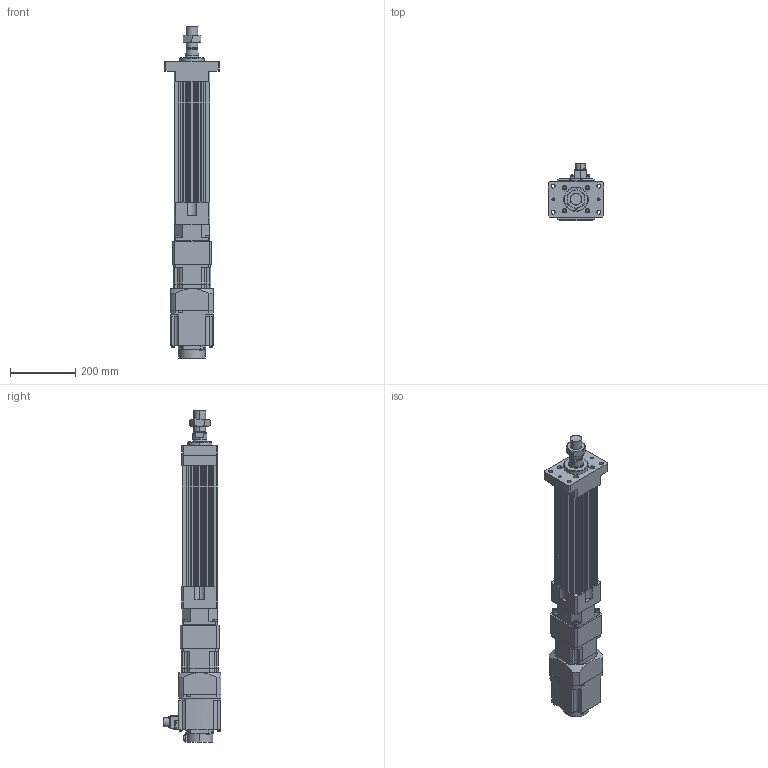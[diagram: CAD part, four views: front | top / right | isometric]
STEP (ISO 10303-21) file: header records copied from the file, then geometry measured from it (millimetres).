
FILE_DESCRIPTION (( 'STEP AP203' ), '1' );
FILE_NAME ('HES110NS(HS)-S200-W015G00-M-FM.STEP', '2023-01-28T06:04:27', ( 'tms' ), ( '' ), 'SwSTEP 2.0', 'SolidWorks 2013', '' );
FILE_SCHEMA (( 'CONFIG_CONTROL_DESIGN' ));
Length unit declared in the file: millimetre
Products named in the file (8): P0401400706; M36X1.5P; HG-SR152; HES110 ROD M ST200; HES110NS(HS)-S200-W015G00-M-FM; AB115-003[HG-SR152]; AB1151; HES110-S200-G120-FM
Assembly tree (7 placements, depth 3):
  HES110NS(HS)-S200-W015G00-M-FM
    HES110-S200-G120-FM
    HES110 ROD M ST200
    M36X1.5P
    AB115-003[HG-SR152]
      AB1151
      P0401400706
    HG-SR152
Bounding box: 170 x 177.49 x 1021.5 mm (x, y, z)
Volume: 6723764 mm3; surface area: 897455.5 mm2
Topology: 4 solids, 15 shells, 1170 faces, 2958 edges, 1925 vertices
Faces by surface type: plane 559, cylinder 525, cone 74, bspline 8, torus 4
Entity records: 36974 total; most frequent: CARTESIAN_POINT 7028, DIRECTION 6389, ORIENTED_EDGE 5864, EDGE_CURVE 2942, AXIS2_PLACEMENT_3D 2346, VERTEX_POINT 1925, LINE 1697, VECTOR 1697
